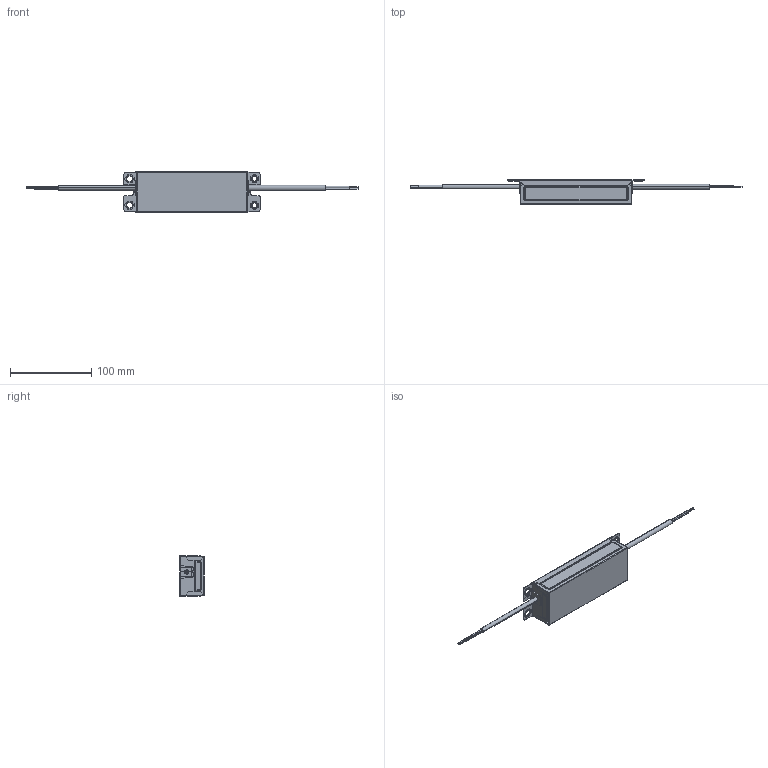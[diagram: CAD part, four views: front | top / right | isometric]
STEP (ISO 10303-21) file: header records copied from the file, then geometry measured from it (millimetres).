
FILE_DESCRIPTION (( 'STEP AP203' ), '1' );
FILE_NAME ('OT50.STEP', '2015-07-17T08:13:22', ( '' ), ( '' ), 'SwSTEP 2.0', 'SolidWorks 2012', '' );
FILE_SCHEMA (( 'CONFIG_CONTROL_DESIGN' ));
Length unit declared in the file: millimetre
Products named in the file (7): OT50; cable_bushing_asm_d6.4; cable_bushing_asm_d5.2; 2c1qu_ass; 3c1qu_asm; cover_50w_asm; base_50w
Assembly tree (6 placements, depth 2):
  OT50
    base_50w
    cover_50w_asm
    3c1qu_asm
    2c1qu_ass
    cable_bushing_asm_d5.2
    cable_bushing_asm_d6.4
Bounding box: 409.55 x 30.2 x 50.3 mm (x, y, z)
Volume: 21232.2 mm3; surface area: 74767.7 mm2
Topology: 32 solids, 32 shells, 1226 faces, 3036 edges, 1874 vertices
Faces by surface type: plane 494, cylinder 476, torus 140, bspline 84, cone 32
Entity records: 39051 total; most frequent: CARTESIAN_POINT 9437, DIRECTION 6184, ORIENTED_EDGE 6040, EDGE_CURVE 3020, AXIS2_PLACEMENT_3D 2297, VERTEX_POINT 1874, LINE 1590, VECTOR 1590
